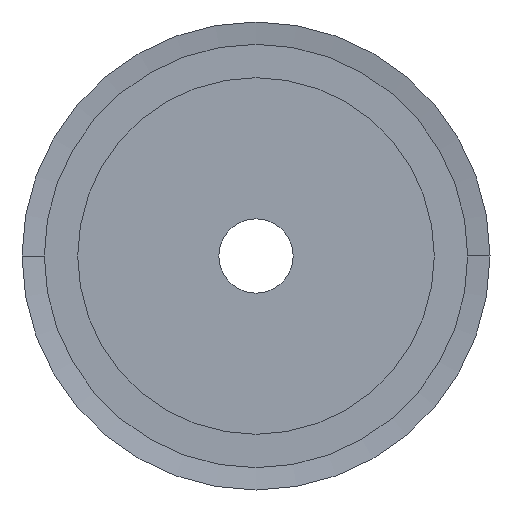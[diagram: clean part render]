
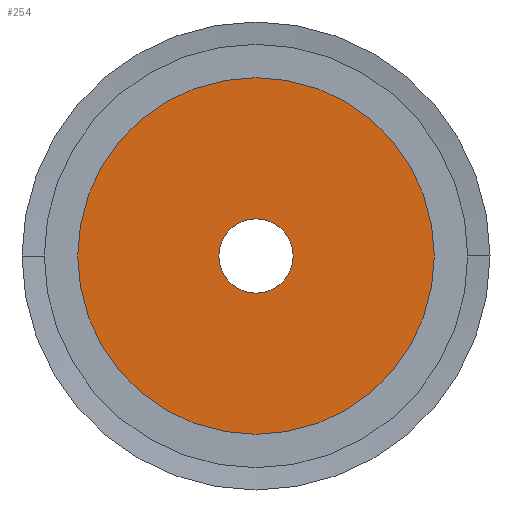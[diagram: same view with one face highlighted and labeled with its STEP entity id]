
A CAD part, left-side view. The second image highlights one B-rep face of the part: STEP entity #254.
In plain terms, the highlighted planar face has unit normal (-1, 0, 0).
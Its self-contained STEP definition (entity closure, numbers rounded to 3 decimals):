
#254 = ADVANCED_FACE( '', ( #620, #621 ), #622, .T. );
#620 = FACE_BOUND( '', #987, .T. );
#621 = FACE_OUTER_BOUND( '', #988, .T. );
#622 = PLANE( '', #989 );
#987 = EDGE_LOOP( '', ( #2545, #2546 ) );
#988 = EDGE_LOOP( '', ( #2547, #2548 ) );
#989 = AXIS2_PLACEMENT_3D( '', #2549, #2550, #2551 );
#2545 = ORIENTED_EDGE( '', *, *, #2595, .T. );
#2546 = ORIENTED_EDGE( '', *, *, #2591, .T. );
#2547 = ORIENTED_EDGE( '', *, *, #2555, .T. );
#2548 = ORIENTED_EDGE( '', *, *, #3062, .T. );
#2549 = CARTESIAN_POINT( '', ( 0., 12., 0. ) );
#2550 = DIRECTION( '', ( -1., 0., 0. ) );
#2551 = DIRECTION( '', ( 0., 1., 0. ) );
#2555 = EDGE_CURVE( '', #3064, #3068, #3070, .T. );
#2591 = EDGE_CURVE( '', #3136, #3133, #3137, .T. );
#2595 = EDGE_CURVE( '', #3133, #3136, #3142, .T. );
#3062 = EDGE_CURVE( '', #3068, #3064, #3911, .T. );
#3064 = VERTEX_POINT( '', #3913 );
#3068 = VERTEX_POINT( '', #3918 );
#3070 = CIRCLE( '', #3921, 24. );
#3133 = VERTEX_POINT( '', #4002 );
#3136 = VERTEX_POINT( '', #4006 );
#3137 = CIRCLE( '', #4007, 5. );
#3142 = CIRCLE( '', #4013, 5. );
#3911 = CIRCLE( '', #5047, 24. );
#3913 = CARTESIAN_POINT( '', ( 0., 24., 0. ) );
#3918 = CARTESIAN_POINT( '', ( 0., -24., 0. ) );
#3921 = AXIS2_PLACEMENT_3D( '', #5053, #5054, #5055 );
#4002 = CARTESIAN_POINT( '', ( 0., 5., 0. ) );
#4006 = CARTESIAN_POINT( '', ( 0., -5., 0. ) );
#4007 = AXIS2_PLACEMENT_3D( '', #5123, #5124, #5125 );
#4013 = AXIS2_PLACEMENT_3D( '', #5133, #5134, #5135 );
#5047 = AXIS2_PLACEMENT_3D( '', #6004, #6005, #6006 );
#5053 = CARTESIAN_POINT( '', ( 0., 0., 0. ) );
#5054 = DIRECTION( '', ( -1., 0., 0. ) );
#5055 = DIRECTION( '', ( 0., 1., 0. ) );
#5123 = CARTESIAN_POINT( '', ( 0., 0., 0. ) );
#5124 = DIRECTION( '', ( 1., 0., 0. ) );
#5125 = DIRECTION( '', ( 0., 1., 0. ) );
#5133 = CARTESIAN_POINT( '', ( 0., 0., 0. ) );
#5134 = DIRECTION( '', ( 1., 0., 0. ) );
#5135 = DIRECTION( '', ( 0., 1., 0. ) );
#6004 = CARTESIAN_POINT( '', ( 0., 0., 0. ) );
#6005 = DIRECTION( '', ( -1., 0., 0. ) );
#6006 = DIRECTION( '', ( 0., 1., 0. ) );
